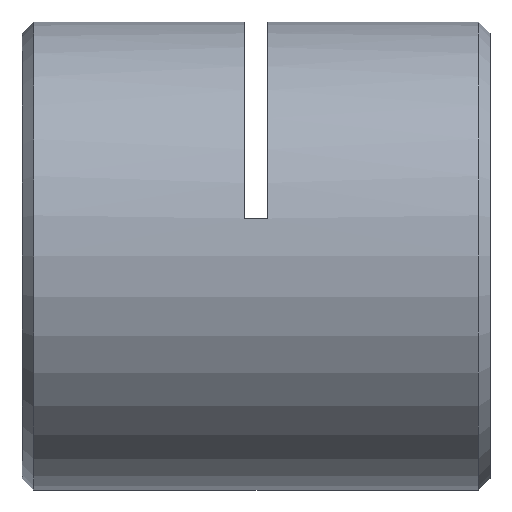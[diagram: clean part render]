
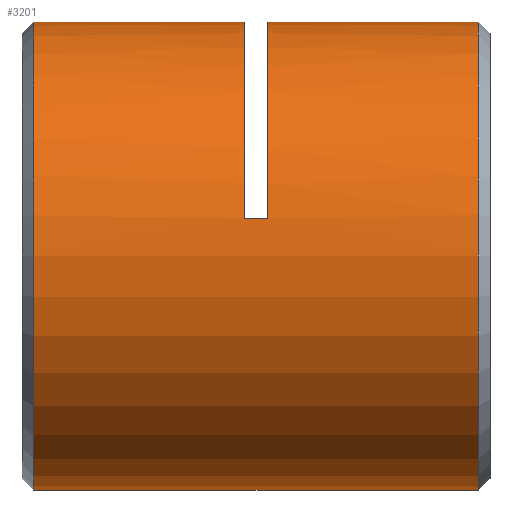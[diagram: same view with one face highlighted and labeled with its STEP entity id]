
A CAD part, left-side view. The second image highlights one B-rep face of the part: STEP entity #3201.
In plain terms, the highlighted cylindrical face has radius 8 mm (diameter 16 mm), a partial arc.
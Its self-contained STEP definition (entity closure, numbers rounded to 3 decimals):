
#2 = CARTESIAN_POINT ( 'NONE',  ( 0., 0.65, 8. ) ) ;
#40 = CARTESIAN_POINT ( 'NONE',  ( 0., 7.85, 8. ) ) ;
#172 = CARTESIAN_POINT ( 'NONE',  ( 0., 15.85, 0. ) ) ;
#184 = CIRCLE ( 'NONE', #2091, 8. ) ;
#232 = CARTESIAN_POINT ( 'NONE',  ( 0., 0.65, 0. ) ) ;
#246 = LINE ( 'NONE', #3808, #2085 ) ;
#265 = EDGE_CURVE ( 'NONE', #3326, #3510, #3921, .T. ) ;
#438 = ORIENTED_EDGE ( 'NONE', *, *, #2615, .T. ) ;
#518 = DIRECTION ( 'NONE',  ( 0., 0., 1. ) ) ;
#533 = VERTEX_POINT ( 'NONE', #2374 ) ;
#673 = CYLINDRICAL_SURFACE ( 'NONE', #2244, 8. ) ;
#746 = ORIENTED_EDGE ( 'NONE', *, *, #2978, .T. ) ;
#837 = LINE ( 'NONE', #1729, #3009 ) ;
#891 = CARTESIAN_POINT ( 'NONE',  ( 0., 8.65, 0. ) ) ;
#922 = VERTEX_POINT ( 'NONE', #2 ) ;
#1035 = ORIENTED_EDGE ( 'NONE', *, *, #3700, .T. ) ;
#1094 = DIRECTION ( 'NONE',  ( 0., -1., 0. ) ) ;
#1131 = DIRECTION ( 'NONE',  ( 0., 0., 1. ) ) ;
#1358 = VECTOR ( 'NONE', #1866, 1000. ) ;
#1429 = CARTESIAN_POINT ( 'NONE',  ( 0., 7.85, 0. ) ) ;
#1467 = VERTEX_POINT ( 'NONE', #3219 ) ;
#1508 = ORIENTED_EDGE ( 'NONE', *, *, #265, .F. ) ;
#1525 = VERTEX_POINT ( 'NONE', #1664 ) ;
#1553 = CIRCLE ( 'NONE', #2643, 8. ) ;
#1646 = CARTESIAN_POINT ( 'NONE',  ( 0., 0.25, 8. ) ) ;
#1664 = CARTESIAN_POINT ( 'NONE',  ( -7.897, 8.65, 1.28 ) ) ;
#1711 = EDGE_CURVE ( 'NONE', #1467, #533, #837, .T. ) ;
#1714 = EDGE_CURVE ( 'NONE', #2704, #1814, #1553, .T. ) ;
#1729 = CARTESIAN_POINT ( 'NONE',  ( 0., 0.25, 8. ) ) ;
#1759 = CARTESIAN_POINT ( 'NONE',  ( 0., 15.85, -8. ) ) ;
#1814 = VERTEX_POINT ( 'NONE', #40 ) ;
#1866 = DIRECTION ( 'NONE',  ( 0., 1., 0. ) ) ;
#1987 = DIRECTION ( 'NONE',  ( 0., 1., 0. ) ) ;
#1994 = EDGE_CURVE ( 'NONE', #2704, #1525, #246, .T. ) ;
#1996 = DIRECTION ( 'NONE',  ( 0., 1., 0. ) ) ;
#2003 = ORIENTED_EDGE ( 'NONE', *, *, #1714, .F. ) ;
#2043 = AXIS2_PLACEMENT_3D ( 'NONE', #232, #2965, #1131 ) ;
#2085 = VECTOR ( 'NONE', #1987, 1000. ) ;
#2091 = AXIS2_PLACEMENT_3D ( 'NONE', #891, #3045, #3593 ) ;
#2119 = VECTOR ( 'NONE', #2237, 1000. ) ;
#2237 = DIRECTION ( 'NONE',  ( 0., 1., 0. ) ) ;
#2244 = AXIS2_PLACEMENT_3D ( 'NONE', #3516, #1996, #3215 ) ;
#2269 = LINE ( 'NONE', #1646, #2119 ) ;
#2286 = CIRCLE ( 'NONE', #2608, 8. ) ;
#2317 = ORIENTED_EDGE ( 'NONE', *, *, #1711, .T. ) ;
#2374 = CARTESIAN_POINT ( 'NONE',  ( 0., 15.85, 8. ) ) ;
#2438 = CARTESIAN_POINT ( 'NONE',  ( 0., 0.65, -8. ) ) ;
#2538 = ORIENTED_EDGE ( 'NONE', *, *, #3253, .T. ) ;
#2608 = AXIS2_PLACEMENT_3D ( 'NONE', #172, #1094, #3248 ) ;
#2615 = EDGE_CURVE ( 'NONE', #922, #1814, #2269, .T. ) ;
#2643 = AXIS2_PLACEMENT_3D ( 'NONE', #1429, #3864, #518 ) ;
#2655 = ORIENTED_EDGE ( 'NONE', *, *, #1994, .T. ) ;
#2704 = VERTEX_POINT ( 'NONE', #3549 ) ;
#2965 = DIRECTION ( 'NONE',  ( 0., 1., 0. ) ) ;
#2978 = EDGE_CURVE ( 'NONE', #533, #3510, #2286, .T. ) ;
#3009 = VECTOR ( 'NONE', #3856, 1000. ) ;
#3045 = DIRECTION ( 'NONE',  ( 0., 1., 0. ) ) ;
#3130 = CARTESIAN_POINT ( 'NONE',  ( 0., 0.25, -8. ) ) ;
#3140 = EDGE_LOOP ( 'NONE', ( #1508, #2538, #438, #2003, #2655, #1035, #2317, #746 ) ) ;
#3183 = CIRCLE ( 'NONE', #2043, 8. ) ;
#3201 = ADVANCED_FACE ( 'NONE', ( #3229 ), #673, .T. ) ;
#3215 = DIRECTION ( 'NONE',  ( 0., 0., 1. ) ) ;
#3219 = CARTESIAN_POINT ( 'NONE',  ( 0., 8.65, 8. ) ) ;
#3229 = FACE_OUTER_BOUND ( 'NONE', #3140, .T. ) ;
#3248 = DIRECTION ( 'NONE',  ( 0., 0., -1. ) ) ;
#3253 = EDGE_CURVE ( 'NONE', #3326, #922, #3183, .T. ) ;
#3326 = VERTEX_POINT ( 'NONE', #2438 ) ;
#3510 = VERTEX_POINT ( 'NONE', #1759 ) ;
#3516 = CARTESIAN_POINT ( 'NONE',  ( 0., 0.25, 0. ) ) ;
#3549 = CARTESIAN_POINT ( 'NONE',  ( -7.897, 7.85, 1.28 ) ) ;
#3593 = DIRECTION ( 'NONE',  ( 0., 0., 1. ) ) ;
#3700 = EDGE_CURVE ( 'NONE', #1525, #1467, #184, .T. ) ;
#3808 = CARTESIAN_POINT ( 'NONE',  ( -7.897, 8.25, 1.28 ) ) ;
#3856 = DIRECTION ( 'NONE',  ( 0., 1., 0. ) ) ;
#3864 = DIRECTION ( 'NONE',  ( 0., 1., 0. ) ) ;
#3921 = LINE ( 'NONE', #3130, #1358 ) ;
